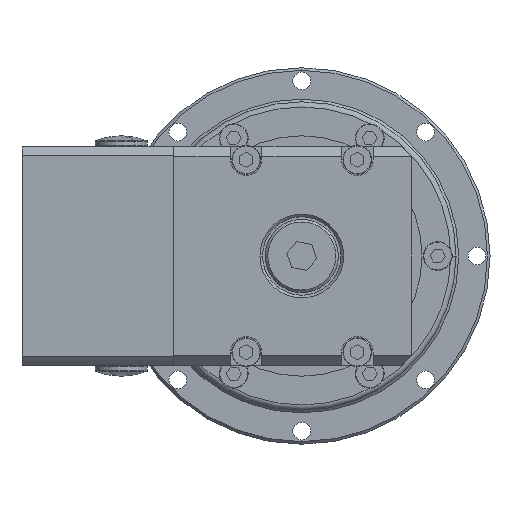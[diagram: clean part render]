
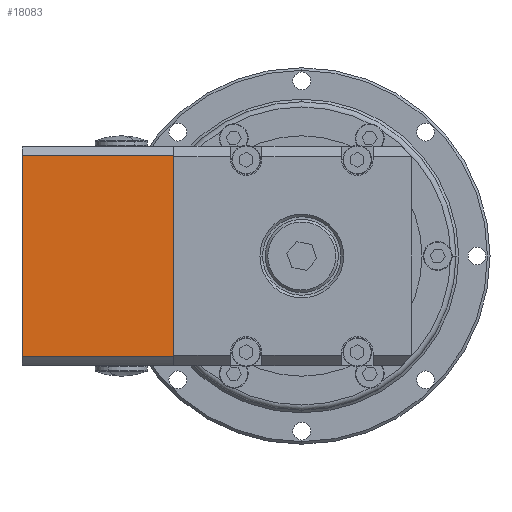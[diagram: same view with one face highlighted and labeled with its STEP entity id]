
A CAD part, left-side view. The second image highlights one B-rep face of the part: STEP entity #18083.
In plain terms, the highlighted planar face has unit normal (-1, 0, 0).
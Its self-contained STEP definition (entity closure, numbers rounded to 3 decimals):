
#305 = DIRECTION ( 'NONE',  ( 0., 1., 0. ) ) ;
#948 = DIRECTION ( 'NONE',  ( 0., 0., 1. ) ) ;
#1383 = DIRECTION ( 'NONE',  ( 0., 0., 1. ) ) ;
#1528 = EDGE_CURVE ( 'NONE', #30152, #23744, #32292, .T. ) ;
#1731 = VECTOR ( 'NONE', #29863, 1000. ) ;
#2606 = ORIENTED_EDGE ( 'NONE', *, *, #11119, .F. ) ;
#3770 = VERTEX_POINT ( 'NONE', #11333 ) ;
#4218 = ORIENTED_EDGE ( 'NONE', *, *, #1528, .T. ) ;
#4443 = ORIENTED_EDGE ( 'NONE', *, *, #26734, .T. ) ;
#5635 = CARTESIAN_POINT ( 'NONE',  ( -69., 53.5, 19.268 ) ) ;
#7543 = FACE_OUTER_BOUND ( 'NONE', #9248, .T. ) ;
#9248 = EDGE_LOOP ( 'NONE', ( #2606, #4443, #4218, #23337 ) ) ;
#11119 = EDGE_CURVE ( 'NONE', #18856, #3770, #21241, .T. ) ;
#11333 = CARTESIAN_POINT ( 'NONE',  ( -69., 53.5, -19.268 ) ) ;
#11978 = LINE ( 'NONE', #16149, #30752 ) ;
#12723 = VECTOR ( 'NONE', #33026, 1000. ) ;
#12853 = PLANE ( 'NONE',  #25095 ) ;
#14892 = CARTESIAN_POINT ( 'NONE',  ( -69., 24.5, -19.268 ) ) ;
#15515 = DIRECTION ( 'NONE',  ( 1., 0., 0. ) ) ;
#16149 = CARTESIAN_POINT ( 'NONE',  ( -69., 53.5, -21. ) ) ;
#16587 = CARTESIAN_POINT ( 'NONE',  ( -69., 24.5, -21. ) ) ;
#16644 = EDGE_CURVE ( 'NONE', #3770, #23744, #11978, .T. ) ;
#17957 = CARTESIAN_POINT ( 'NONE',  ( -69., 53.5, -21. ) ) ;
#18083 = ADVANCED_FACE ( 'NONE', ( #7543 ), #12853, .F. ) ;
#18856 = VERTEX_POINT ( 'NONE', #14892 ) ;
#19691 = CARTESIAN_POINT ( 'NONE',  ( -69., 24.5, -19.268 ) ) ;
#20121 = VECTOR ( 'NONE', #1383, 1000. ) ;
#20292 = CARTESIAN_POINT ( 'NONE',  ( -69., 24.5, 19.268 ) ) ;
#21241 = LINE ( 'NONE', #19691, #1731 ) ;
#23196 = CARTESIAN_POINT ( 'NONE',  ( -69., 24.5, 19.268 ) ) ;
#23337 = ORIENTED_EDGE ( 'NONE', *, *, #16644, .F. ) ;
#23744 = VERTEX_POINT ( 'NONE', #5635 ) ;
#25095 = AXIS2_PLACEMENT_3D ( 'NONE', #17957, #15515, #305 ) ;
#26734 = EDGE_CURVE ( 'NONE', #18856, #30152, #26918, .T. ) ;
#26918 = LINE ( 'NONE', #16587, #20121 ) ;
#29863 = DIRECTION ( 'NONE',  ( 0., 1., 0. ) ) ;
#30152 = VERTEX_POINT ( 'NONE', #23196 ) ;
#30752 = VECTOR ( 'NONE', #948, 1000. ) ;
#32292 = LINE ( 'NONE', #20292, #12723 ) ;
#33026 = DIRECTION ( 'NONE',  ( 0., 1., 0. ) ) ;
